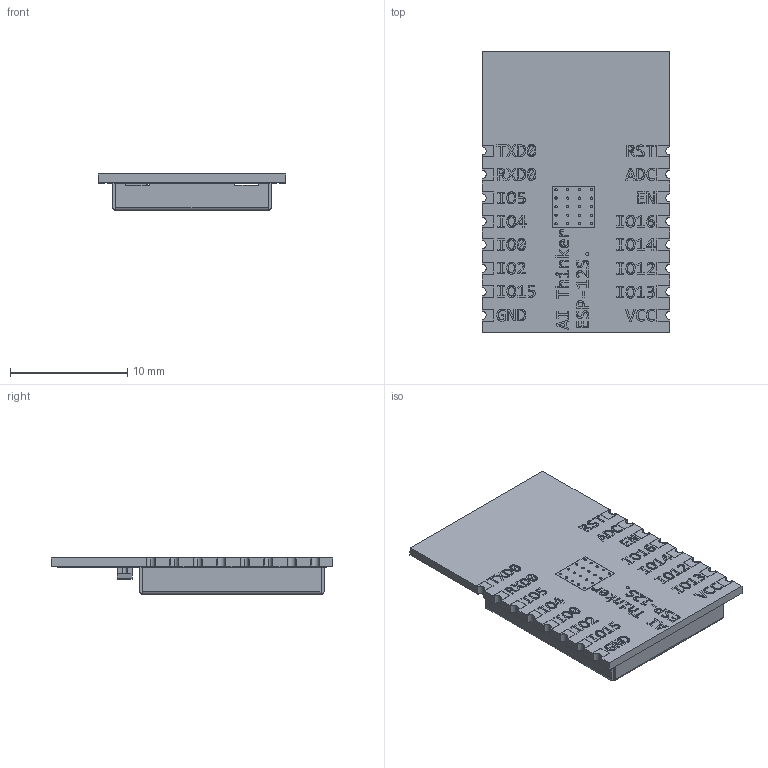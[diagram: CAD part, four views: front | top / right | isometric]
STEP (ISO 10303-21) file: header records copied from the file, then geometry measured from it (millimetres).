
FILE_DESCRIPTION (( 'STEP AP214' ), '1' );
FILE_NAME ('User Library-esp-12s.STEP', '2019-07-26T09:05:13', ( '' ), ( '' ), 'SwSTEP 2.0', 'SolidWorks 2019', '' );
FILE_SCHEMA (( 'AUTOMOTIVE_DESIGN' ));
Length unit declared in the file: millimetre
Products named in the file (1): User Library-esp-12s
Bounding box: 16 x 24 x 3.12 mm (x, y, z)
Volume: 371.1 mm3; surface area: 1579.6 mm2
Topology: 19 solids, 19 shells, 2275 faces, 6082 edges, 4052 vertices
Faces by surface type: plane 1491, bspline 614, cylinder 170
Entity records: 99536 total; most frequent: CARTESIAN_POINT 22130, ORIENTED_EDGE 12164, DIRECTION 8518, EDGE_CURVE 6082, VECTOR 4514, LINE 4514, VERTEX_POINT 4052, EDGE_LOOP 2496
